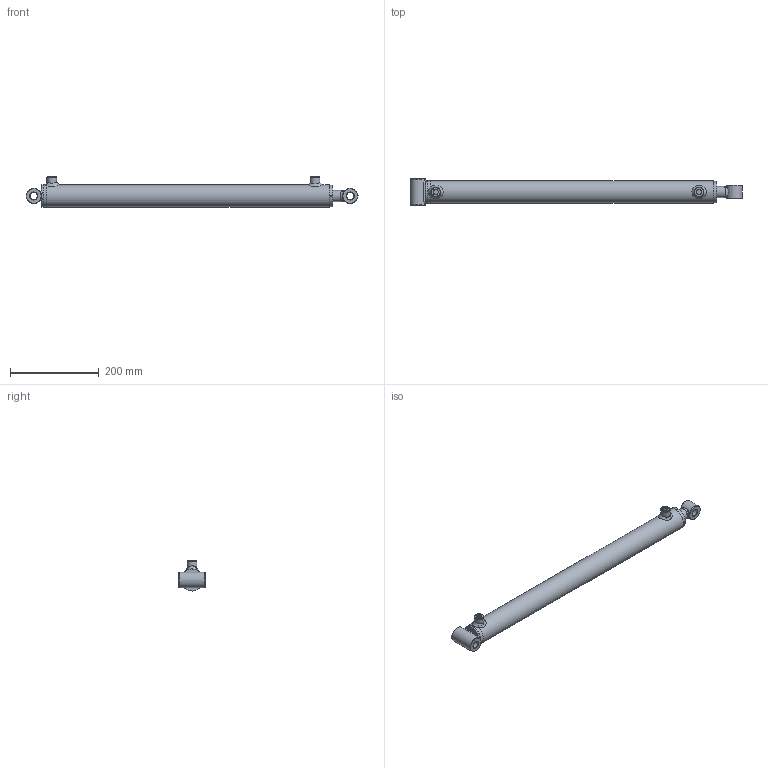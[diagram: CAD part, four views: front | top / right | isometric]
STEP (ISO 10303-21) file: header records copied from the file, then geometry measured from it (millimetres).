
FILE_DESCRIPTION( ( 'Unknown' ), '1' );
FILE_NAME( 'E:/LIBRERIA_3d/CILINDRI/HM2/HM21250550.stp', 'Unknown', ( 'Unknown' ), ( 'Unknown' ), 'PSStep 17.0.49', 'Unknown', ' ' );
FILE_SCHEMA( ( 'AUTOMOTIVE_DESIGN { 1 0 10303 214 1 1 1 1 }' ) );
Length unit declared in the file: millimetre
Products named in the file (26): CT00040015; CG05004025; STL1500550-oa6; Saldatura d'angolo 1-oa4; FTM1500550-oa5; CBSC220400; HM01250550; Saldatura con preparazione 1-oa2; Saldatura d'angolo 1-oa3; CF00040050; CBS0400000; CDA0001415; APG0400000; SBL2510550; Assem1; CB16035030; CB16035060; Saldatura d'angolo 1-oa0; Saldatura d'angolo 2-oa1
Assembly tree (18 placements, depth 4):
  Saldatura d'angolo 1-oa4
  Saldatura d'angolo 1-oa4
  Saldatura d'angolo 1-oa3
  Saldatura d'angolo 1-oa3
  Assem1
    CB16035030
    CB16035060
    HM01250550
      Saldatura con preparazione 1-oa2
      Saldatura con preparazione 1-oa2
      CF00040050
      CBS0400000
      CDA0001415
      APG0400000  x2
      SBL2510550
      CG05004025
        CG05004025
      CT00040015
        CT00040015
      STL1500550-oa6
        FTM1500550-oa5
        CBSC220400
Bounding box: 750 x 60 x 68 mm (x, y, z)
Volume: 928609.3 mm3; surface area: 304883.6 mm2
Topology: 22 solids, 22 shells, 282 faces, 571 edges, 336 vertices
Faces by surface type: bspline 78, plane 72, cylinder 58, cone 42, torus 32
Full cylindrical faces by diameter (mm): 4 x4, 4.25 x1, 7 x2, 11.445 x2, 12 x2, 13.1 x2, 14 x2, 15 x3, 16.2 x2, 19.5 x1, 20 x2, 22 x3, 25 x4, 27 x1, 28 x1, 30 x1, 33 x1, 33.6 x1, 35 x3, 35.4 x2, 38.5 x2, 39.9 x1, 40 x1, 40.3 x1, 40.5 x1, 40.6 x1, 41 x1, 42 x3, 42.5 x1, 44 x1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
Entity records: 16842 total; most frequent: CARTESIAN_POINT 9834, DIRECTION 834, ORIENTED_EDGE 772, EDGE_LOOP 450, AXIS2_PLACEMENT_3D 399, EDGE_CURVE 386, FACE_OUTER_BOUND 368, VERTEX_POINT 293
